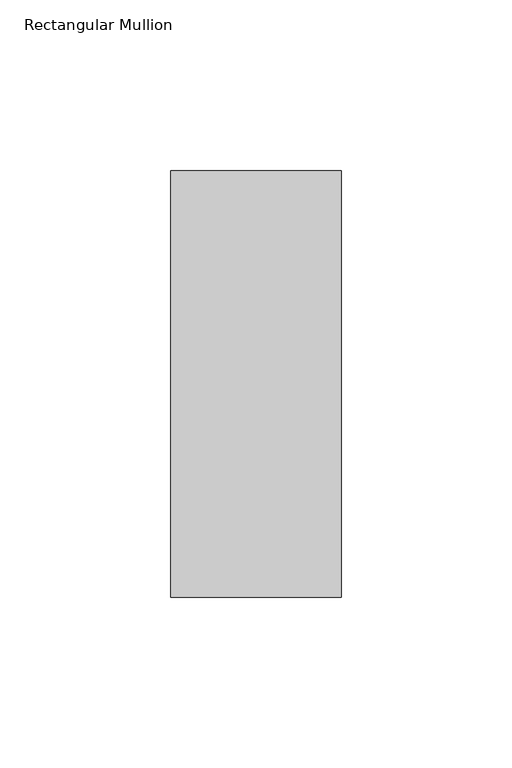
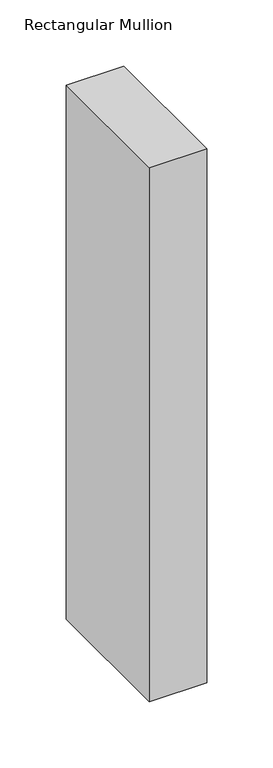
"""IFC4 building model written with IfcOpenShell, lengths in millimetres: member geometry, Rectangular Mullion : DucoSun Cubic Design profile 50x125 for louvre 600."""

import ifcopenshell
import ifcopenshell.guid

model = None  # the IFC model being written
_history = None  # IfcOwnerHistory: only IFC2X3 demands one
_inside = {}  # id of a spatial element -> (the spatial element, [elements in it])
_under = {}  # id of a project, library or spatial element -> (it, [spatial elements below it])
_declared = {}  # id of a project -> (the project, [libraries it declares])
_typed = {}  # id of a type object -> (the type object, [elements of that type])
_made_of = {}  # id of a material, layer set ... -> (it, [elements and type objects made of it])


def new_model(schema):
    """Start an empty IFC model of exactly this schema.

    Asked for "IFC4X3", IfcOpenShell would pick the latest addendum, in which some entities
    have other attributes; the version numbers below select the first issue.
    IFC2X3 requires an IfcOwnerHistory on every rooted entity: one is made here for all.
    """
    global model, _history
    if schema == "IFC4X3":
        model = ifcopenshell.file(schema_version=(4, 3, 0, 0))
    else:
        model = ifcopenshell.file(schema=schema)
    _inside.clear()
    _under.clear()
    _declared.clear()
    _typed.clear()
    _made_of.clear()
    _history = None
    if model.schema == "IFC2X3":
        org = make("IfcOrganization", Name="unknown")
        user = make(
            "IfcPersonAndOrganization",
            ThePerson=make("IfcPerson", FamilyName="unknown"),
            TheOrganization=org,
        )
        app = make(
            "IfcApplication",
            ApplicationDeveloper=org,
            Version="unknown",
            ApplicationFullName="unknown",
            ApplicationIdentifier="unknown",
        )
        _history = make(
            "IfcOwnerHistory",
            OwningUser=user,
            OwningApplication=app,
            ChangeAction="ADDED",
            CreationDate=0,
        )
    return model


def make(cls, **values):
    """One entity of the class cls with the attributes given. An attribute that is None is left unset."""
    return model.create_entity(
        cls, **{name: value for name, value in values.items() if value is not None}
    )


def rooted(cls, **values):
    """An entity with a GlobalId (a new one), such as an element, a storey or a relation."""
    return make(cls, GlobalId=ifcopenshell.guid.new(), OwnerHistory=_history, **values)


def si_unit(unit_type, name, prefix=None):
    """IfcSIUnit, for example si_unit("LENGTHUNIT", "METRE", prefix="MILLI")."""
    return make("IfcSIUnit", UnitType=unit_type, Prefix=prefix, Name=name)


def assignment(units):
    """IfcUnitAssignment: the units of a project."""
    return None if units is None else make("IfcUnitAssignment", Units=units)


def point(xyz):
    """IfcCartesianPoint."""
    return None if xyz is None else make("IfcCartesianPoint", Coordinates=xyz)


def direction(xyz):
    """IfcDirection."""
    return None if xyz is None else make("IfcDirection", DirectionRatios=xyz)


def frame(location, z_axis=None, x_axis=None):
    """IfcAxis2Placement3D, a coordinate frame: its origin and axes. An axis left out is left unset."""
    return make(
        "IfcAxis2Placement3D",
        Location=point(location),
        Axis=direction(z_axis),
        RefDirection=direction(x_axis),
    )


def origin():
    """The frame at (0, 0, 0) with its axes left unset."""
    return frame((0.0, 0.0, 0.0))


def place(relative_to, where):
    """IfcLocalPlacement: puts the frame where relative to a parent placement (None: the world)."""
    return make(
        "IfcLocalPlacement", PlacementRelTo=relative_to, RelativePlacement=where
    )


def context(
    kind, dimensions, precision=None, world=None, true_north=None, identifier=None
):
    """IfcGeometricRepresentationContext, for example the 3D "Model" context."""
    return make(
        "IfcGeometricRepresentationContext",
        ContextIdentifier=identifier,
        ContextType=kind,
        CoordinateSpaceDimension=dimensions,
        Precision=precision,
        WorldCoordinateSystem=world,
        TrueNorth=true_north,
    )


def project(units=None, contexts=None):
    """IfcProject with its units and contexts."""
    return rooted(
        "IfcProject",
        Name="project",
        RepresentationContexts=contexts,
        UnitsInContext=assignment(units),
    )


def spatial(cls, under=None, at=None, **own):
    """A site, building, storey or space (cls), placed at a placement, below another one or the project."""
    s = rooted(cls, ObjectPlacement=at, **own)
    if under is not None:
        _under.setdefault(under.id(), (under, []))[1].append(s)
    return s


def polyline(points):
    """IfcPolyline through the points."""
    return make("IfcPolyline", Points=[point(p) for p in points])


def outline(outer, holes=None, kind="AREA"):
    """IfcArbitraryClosedProfileDef: a profile drawn as a closed curve; with holes, ...WithVoids."""
    if holes is None:
        return make("IfcArbitraryClosedProfileDef", ProfileType=kind, OuterCurve=outer)
    return make(
        "IfcArbitraryProfileDefWithVoids",
        ProfileType=kind,
        OuterCurve=outer,
        InnerCurves=holes,
    )


def extrude(swept, where, along, depth):
    """IfcExtrudedAreaSolid: the profile swept, set in the frame where, extruded along a direction by depth."""
    return make(
        "IfcExtrudedAreaSolid",
        SweptArea=swept,
        Position=where,
        ExtrudedDirection=direction(along),
        Depth=depth,
    )


def shape(context_of_items, identifier, shape_type, items):
    """IfcShapeRepresentation: the items that make up one representation, for example the "Body"."""
    return make(
        "IfcShapeRepresentation",
        ContextOfItems=context_of_items,
        RepresentationIdentifier=identifier,
        RepresentationType=shape_type,
        Items=items,
    )


def source(mapping_origin, context_of_items, identifier, shape_type, items):
    """IfcRepresentationMap: a shape defined once, which mapped items show again and again."""
    return make(
        "IfcRepresentationMap",
        MappingOrigin=mapping_origin,
        MappedRepresentation=shape(context_of_items, identifier, shape_type, items),
    )


def transform(
    local_origin,
    x_axis=None,
    y_axis=None,
    z_axis=None,
    scale=None,
    scale2=None,
    scale3=None,
    uniform=True,
):
    """IfcCartesianTransformationOperator3D, or its non-uniform kind. x_axis, y_axis, z_axis: its Axis1, 2, 3."""
    if uniform:
        return make(
            "IfcCartesianTransformationOperator3D",
            Axis1=direction(x_axis),
            Axis2=direction(y_axis),
            LocalOrigin=point(local_origin),
            Scale=scale,
            Axis3=direction(z_axis),
        )
    return make(
        "IfcCartesianTransformationOperator3DnonUniform",
        Axis1=direction(x_axis),
        Axis2=direction(y_axis),
        LocalOrigin=point(local_origin),
        Scale=scale,
        Axis3=direction(z_axis),
        Scale2=scale2,
        Scale3=scale3,
    )


def mapped(mapping_source, mapping_target):
    """IfcMappedItem: shows the shape of a source again, moved by a transform."""
    return make(
        "IfcMappedItem", MappingSource=mapping_source, MappingTarget=mapping_target
    )


def made_of(thing, what):
    """Note that an element or type object is made of a material, layer set ...; save() writes the relation."""
    if what is not None:
        _made_of.setdefault(what.id(), (what, []))[1].append(thing)
    return thing


def element(
    cls,
    number,
    at=None,
    inside=None,
    cuts=None,
    type_object=None,
    material=None,
    context=None,
    identifier="Body",
    shape_type=None,
    held_by="IfcProductDefinitionShape",
    body=None,
    shapes=None,
    **own,
):
    """One element of the class cls, such as IfcWall. Its Tag is "e" and its number.

    at: its placement. inside: the storey or other place that contains it. cuts: it is an
    opening in that element (IfcRelVoidsElement). A single representation is given by context,
    identifier, shape_type and body (its items); several are given by shapes. held_by: the class
    of the entity that holds the representations. save() writes the other relations.
    """
    e = rooted(cls, Tag="e%d" % number, ObjectPlacement=at, **own)
    if body is not None:
        shapes = [shape(context, identifier, shape_type, body)]
    if shapes is not None:
        e.Representation = make(held_by, Representations=shapes)
    if inside is not None:
        _inside.setdefault(inside.id(), (inside, []))[1].append(e)
    if cuts is not None:
        rooted(
            "IfcRelVoidsElement", RelatingBuildingElement=cuts, RelatedOpeningElement=e
        )
    if type_object is not None:
        _typed.setdefault(type_object.id(), (type_object, []))[1].append(e)
    return made_of(e, material)


def aggregate(whole, parts):
    """IfcRelAggregates: a whole, such as a stair, and the parts it consists of."""
    return rooted("IfcRelAggregates", RelatingObject=whole, RelatedObjects=parts)


def save(model, path):
    """Write the relations noted so far, then the file.

    IfcRelAggregates (storeys below a building ...), IfcRelContainedInSpatialStructure (elements
    in a storey), IfcRelDefinesByType, IfcRelAssociatesMaterial and IfcRelDeclares: one each for
    every whole, place, type object, material and project.
    """
    for whole, parts in _under.values():
        aggregate(whole, parts)
    for where, things in _inside.values():
        rooted(
            "IfcRelContainedInSpatialStructure",
            RelatedElements=things,
            RelatingStructure=where,
        )
    for kind, things in _typed.values():
        rooted("IfcRelDefinesByType", RelatedObjects=things, RelatingType=kind)
    for what, things in _made_of.values():
        rooted("IfcRelAssociatesMaterial", RelatedObjects=things, RelatingMaterial=what)
    for by, libraries in _declared.values():
        rooted("IfcRelDeclares", RelatingContext=by, RelatedDefinitions=libraries)
    model.write(path)


def rectangular_mullion_fd8584c2(model_context):
    return source(origin(), model_context, "Body", "SweptSolid", [
        extrude(outline(polyline([(0.0, 237.5), (-50.0, 237.5), (-50.0, 362.5), (0.0, 362.5), (0.0, 237.5)])), frame((0.0, 0.0, -491.4999999), z_axis=(0.0, 0.0, 1.0), x_axis=(1.0, 0.0, 0.0)), (0.0, 0.0, 1.0), 491.4999999),
    ])


if __name__ == "__main__":
    model = new_model("IFC4")
    model_context = context("Model", 3, world=origin())
    ifc_project = project(units=[si_unit("LENGTHUNIT", "METRE", prefix="MILLI")], contexts=[model_context])
    site = spatial("IfcSite", under=ifc_project)
    building = spatial("IfcBuilding", under=site)
    placement = place(None, origin())
    rectangular_mullion_shape = rectangular_mullion_fd8584c2(model_context)
    element("IfcMember", 1, ObjectType="Rectangular Mullion : DucoSun Cubic Design profile 50x125 for louvre 600", at=placement, inside=building, context=model_context, shape_type="MappedRepresentation", body=[
        mapped(rectangular_mullion_shape, transform((0.0, 0.0, 0.0), x_axis=(1.0, 0.0, 0.0), y_axis=(0.0, 1.0, 0.0), z_axis=(0.0, 0.0, 1.0))),
    ])
    save(model, "model.ifc")
